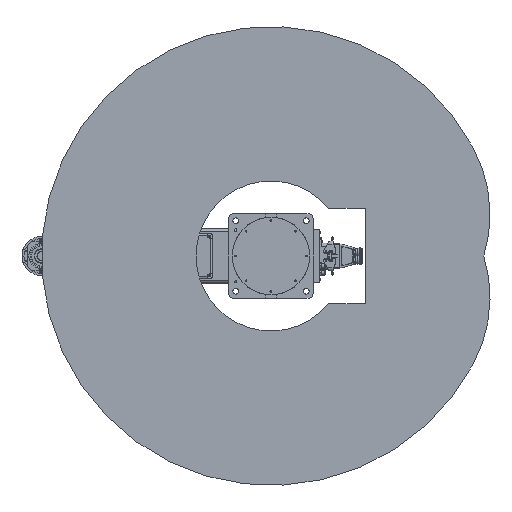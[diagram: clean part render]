
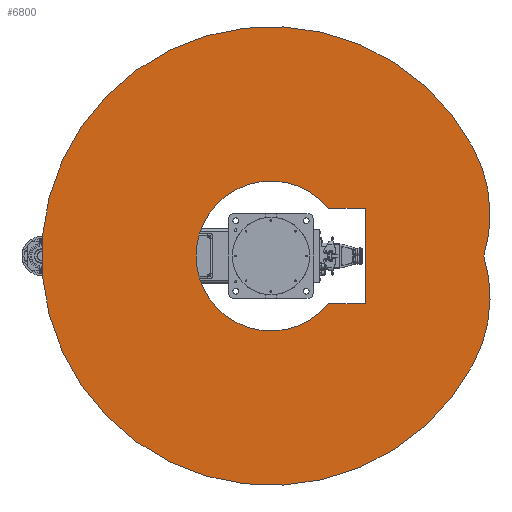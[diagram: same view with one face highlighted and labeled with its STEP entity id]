
A CAD part, front view. The second image highlights one B-rep face of the part: STEP entity #6800.
In plain terms, the highlighted planar face has unit normal (0, -1, 0).
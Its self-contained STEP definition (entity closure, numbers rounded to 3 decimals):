
#6800 = ADVANCED_FACE( '', ( #14682, #14683 ), #14684, .F. );
#14682 = FACE_BOUND( '', #23921, .T. );
#14683 = FACE_OUTER_BOUND( '', #23922, .T. );
#14684 = PLANE( '', #23923 );
#23921 = EDGE_LOOP( '', ( #42611, #42612, #42613, #42614 ) );
#23922 = EDGE_LOOP( '', ( #42615, #42616, #42617 ) );
#23923 = AXIS2_PLACEMENT_3D( '', #42618, #42619, #42620 );
#42611 = ORIENTED_EDGE( '', *, *, #46740, .T. );
#42612 = ORIENTED_EDGE( '', *, *, #46840, .T. );
#42613 = ORIENTED_EDGE( '', *, *, #52395, .T. );
#42614 = ORIENTED_EDGE( '', *, *, #46659, .T. );
#42615 = ORIENTED_EDGE( '', *, *, #49575, .F. );
#42616 = ORIENTED_EDGE( '', *, *, #52423, .F. );
#42617 = ORIENTED_EDGE( '', *, *, #52449, .F. );
#42618 = CARTESIAN_POINT( '', ( 58.684, 0., 110.369 ) );
#42619 = DIRECTION( '', ( 0., 1., 0. ) );
#42620 = DIRECTION( '', ( 0., 0., 1. ) );
#46659 = EDGE_CURVE( '', #55526, #55527, #55528, .T. );
#46740 = EDGE_CURVE( '', #55527, #55662, #55663, .T. );
#46840 = EDGE_CURVE( '', #55662, #55825, #55826, .T. );
#49575 = EDGE_CURVE( '', #60173, #60174, #60175, .T. );
#52395 = EDGE_CURVE( '', #55825, #55526, #63809, .T. );
#52423 = EDGE_CURVE( '', #63841, #60173, #63842, .T. );
#52449 = EDGE_CURVE( '', #60174, #63841, #63871, .T. );
#55526 = VERTEX_POINT( '', #69001 );
#55527 = VERTEX_POINT( '', #69002 );
#55528 = LINE( '', #69003, #69004 );
#55662 = VERTEX_POINT( '', #69267 );
#55663 = LINE( '', #69268, #69269 );
#55825 = VERTEX_POINT( '', #69496 );
#55826 = CIRCLE( '', #69497, 212.4 );
#60173 = VERTEX_POINT( '', #76894 );
#60174 = VERTEX_POINT( '', #76895 );
#60175 = CIRCLE( '', #76896, 400. );
#63809 = LINE( '', #83072, #83073 );
#63841 = VERTEX_POINT( '', #83122 );
#63842 = CIRCLE( '', #83123, 400. );
#63871 = CIRCLE( '', #83165, 650. );
#69001 = CARTESIAN_POINT( '', ( -135., 0., 267. ) );
#69002 = CARTESIAN_POINT( '', ( 135., 0., 267. ) );
#69003 = CARTESIAN_POINT( '', ( -135., 0., 267. ) );
#69004 = VECTOR( '', #85567, 1000. );
#69267 = CARTESIAN_POINT( '', ( 135., 0., 163.978 ) );
#69268 = CARTESIAN_POINT( '', ( 135., 0., 267. ) );
#69269 = VECTOR( '', #85643, 1000. );
#69496 = CARTESIAN_POINT( '', ( -135., 0., 163.978 ) );
#69497 = AXIS2_PLACEMENT_3D( '', #85765, #85766, #85767 );
#76894 = CARTESIAN_POINT( '', ( 0., 0., 603.13 ) );
#76895 = CARTESIAN_POINT( '', ( 305.635, 0., 573.661 ) );
#76896 = AXIS2_PLACEMENT_3D( '', #89191, #89192, #89193 );
#83072 = CARTESIAN_POINT( '', ( -135., 0., 163.978 ) );
#83073 = VECTOR( '', #91935, 1000. );
#83122 = CARTESIAN_POINT( '', ( -305.635, 0., 573.661 ) );
#83123 = AXIS2_PLACEMENT_3D( '', #91956, #91957, #91958 );
#83165 = AXIS2_PLACEMENT_3D( '', #91972, #91973, #91974 );
#85567 = DIRECTION( '', ( 1., 0., 0. ) );
#85643 = DIRECTION( '', ( 0., 0., -1. ) );
#85765 = CARTESIAN_POINT( '', ( 0., 0., 0. ) );
#85766 = DIRECTION( '', ( 0., 1., 0. ) );
#85767 = DIRECTION( '', ( 1., 0., 0. ) );
#89191 = CARTESIAN_POINT( '', ( 117.368, 0., 220.737 ) );
#89192 = DIRECTION( '', ( 0., 1., 0. ) );
#89193 = DIRECTION( '', ( 1., 0., 0. ) );
#91935 = DIRECTION( '', ( 0., 0., 1. ) );
#91956 = CARTESIAN_POINT( '', ( -117.368, 0., 220.737 ) );
#91957 = DIRECTION( '', ( 0., 1., 0. ) );
#91958 = DIRECTION( '', ( 1., 0., 0. ) );
#91972 = CARTESIAN_POINT( '', ( 0., 0., 0. ) );
#91973 = DIRECTION( '', ( 0., 1., 0. ) );
#91974 = DIRECTION( '', ( 1., 0., 0. ) );
